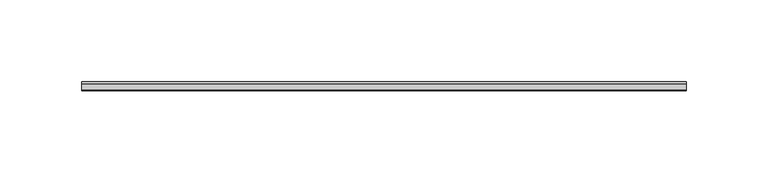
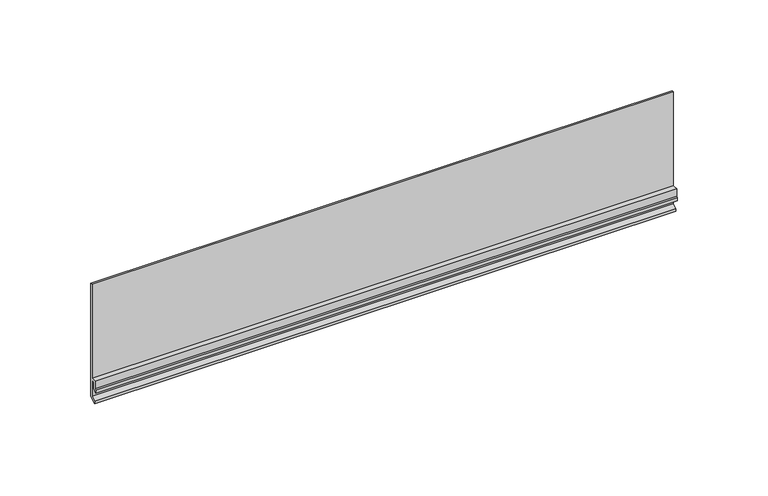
"""IFC4 building model written with IfcOpenShell, lengths in millimetres: plate geometry, FastPlank_P44V-V-Notch-4″-Plank-Horizontal : P44V-V-Notch-4″-Plank-Horizontal."""

from ifc_helpers import new_model, si_unit, frame, origin, place, context, project, spatial, polyline, outline, extrude, source, transform, mapped, element, save


def plate_4d58e162(model_context):
    return source(origin(), model_context, "Body", "SweptSolid", [
        extrude(outline(polyline([(18.8745946, 2.3957023), (14.7246029, 0.0), (14.7246029, 1.7319938), (17.3745976, 3.2617795), (17.3745976, 13.9827581), (15.5246013, 13.9827581), (15.5246013, 9.9691576), (13.3162936, 7.7608499), (13.3162936, 9.8794005), (14.0246043, 10.5877112), (14.0246043, 15.4863039), (17.5745972, 15.4863039), (17.5745972, 78.3636711), (18.8745946, 78.3636711), (18.8745946, 2.3957023)])), frame((-184.7615925, 0.0, 0.0), z_axis=(1.0, 0.0, 0.0), x_axis=(0.0, 1.0, 0.0)), (0.0, 0.0, 1.0), 369.5231851),
    ])


if __name__ == "__main__":
    model = new_model("IFC4")
    model_context = context("Model", 3, world=origin())
    ifc_project = project(units=[si_unit("LENGTHUNIT", "METRE", prefix="MILLI")], contexts=[model_context])
    site = spatial("IfcSite", under=ifc_project)
    building = spatial("IfcBuilding", under=site)
    placement = place(None, origin())
    plate_shape = plate_4d58e162(model_context)
    element("IfcPlate", 1, ObjectType="FastPlank_P44V-V-Notch-4″-Plank-Horizontal : P44V-V-Notch-4″-Plank-Horizontal", at=placement, inside=building, context=model_context, shape_type="MappedRepresentation", body=[
        mapped(plate_shape, transform((0.0, 0.0, 0.0), x_axis=(1.0, 0.0, 0.0), y_axis=(0.0, 1.0, 0.0), z_axis=(0.0, 0.0, 1.0))),
    ])
    save(model, "model.ifc")
